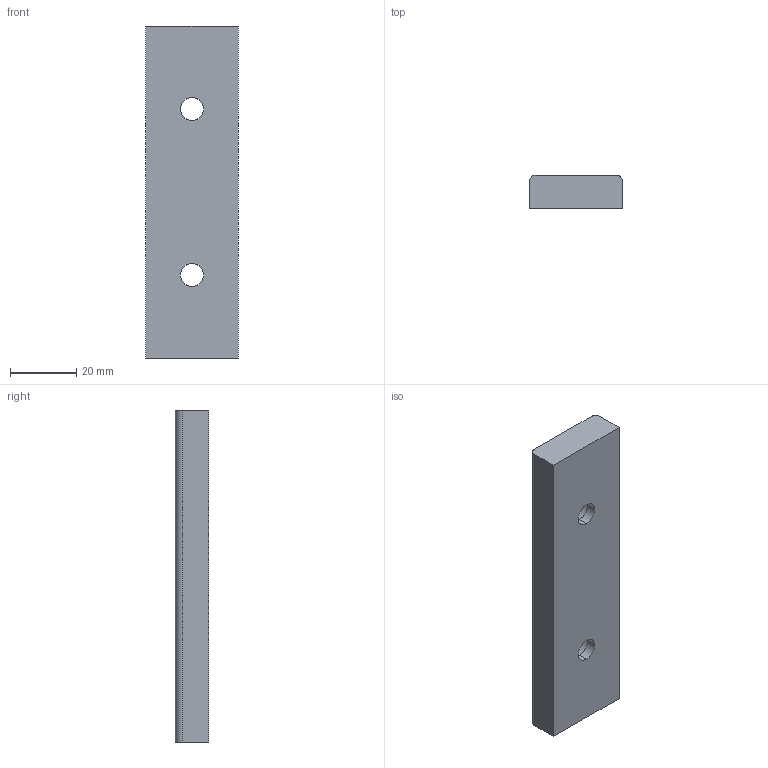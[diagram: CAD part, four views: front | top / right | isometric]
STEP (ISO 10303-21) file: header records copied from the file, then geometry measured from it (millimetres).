
FILE_DESCRIPTION(('CATIA V5 STEP Exchange'),'2;1');
FILE_NAME('C:\Users\Utente\Desktop\3D files A606\A606-028-100.stp','2020-04-13T18:07:46+00:00',('none'),('none'),'CATIA Version 5 Release 20 GA (IN-10)','CATIA V5 STEP AP203','none');
FILE_SCHEMA(('CONFIG_CONTROL_DESIGN'));
Length unit declared in the file: millimetre
Products named in the file (1): Noname
Bounding box: 28 x 10 x 100 mm (x, y, z)
Surface area: 8446.7 mm2 (no closed solid volume)
Topology: 0 solids, 14 shells, 18 faces, 76 edges, 68 vertices
Faces by surface type: cylinder 10, extrusion 8
Entity records: 1044 total; most frequent: CARTESIAN_POINT 415, DIRECTION 84, ORIENTED_EDGE 84, EDGE_CURVE 76, VERTEX_POINT 68, VECTOR 44, LINE 36, AXIS2_PLACEMENT_3D 31
